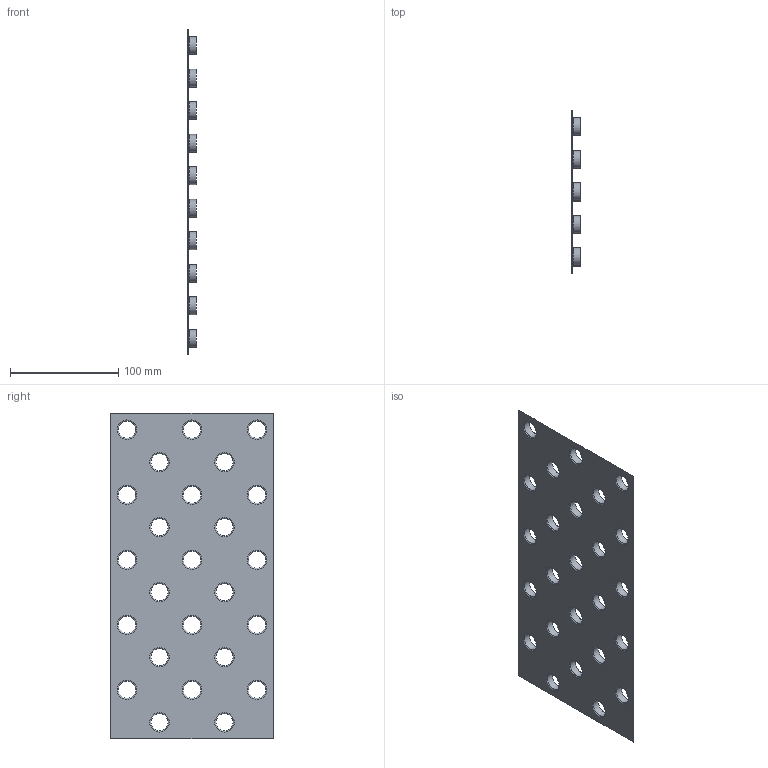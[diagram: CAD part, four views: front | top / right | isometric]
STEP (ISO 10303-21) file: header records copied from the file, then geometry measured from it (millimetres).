
FILE_DESCRIPTION( ( 'Unknown' ), '1' );
FILE_NAME( '//SERVER2K3/Dati/Documenti/TEC/SolidEdge/solidedge/Template/Pacchi Alettati/Geometrie formato STEP/Pacco Standard 60x30 ø15,88.stp', 'Unknown', ( 'Unknown' ), ( 'Unknown' ), 'PSStep 15.0.49', 'Unknown', ' ' );
FILE_SCHEMA( ( 'AUTOMOTIVE_DESIGN { 1 0 10303 214 1 1 1 1 }' ) );
Length unit declared in the file: millimetre
Products named in the file (1): 1
Bounding box: 7.5 x 150 x 300 mm (x, y, z)
Volume: 9757.9 mm3; surface area: 98009.1 mm2
Topology: 1 solids, 1 shells, 131 faces, 312 edges, 208 vertices
Faces by surface type: cylinder 50, torus 50, plane 31
Full cylindrical faces by diameter (mm): 15.88 x25, 16.28 x25
Entity records: 4070 total; most frequent: DIRECTION 576, CARTESIAN_POINT 452, ORIENTED_EDGE 324, EDGE_LOOP 306, AXIS2_PLACEMENT_3D 282, FACE_OUTER_BOUND 231, EDGE_CURVE 162, VERTEX_POINT 158
